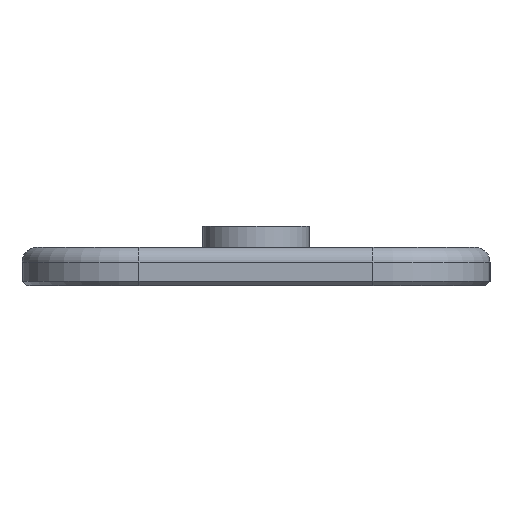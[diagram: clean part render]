
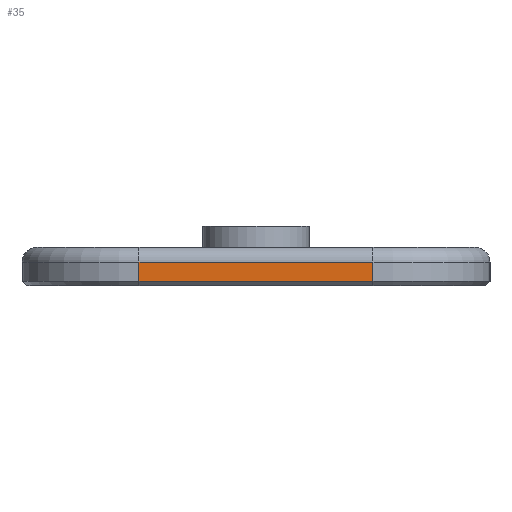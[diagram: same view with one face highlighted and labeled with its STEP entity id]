
A CAD part, left-side view. The second image highlights one B-rep face of the part: STEP entity #35.
In plain terms, the highlighted planar face has unit normal (-1, 0, 0).
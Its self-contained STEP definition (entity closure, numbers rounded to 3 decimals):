
#35 = ADVANCED_FACE('',(#36),#50,.T.);
#36 = FACE_BOUND('',#37,.T.);
#37 = EDGE_LOOP('',(#38,#73,#101,#129));
#38 = ORIENTED_EDGE('',*,*,#39,.T.);
#39 = EDGE_CURVE('',#40,#42,#44,.T.);
#40 = VERTEX_POINT('',#41);
#41 = CARTESIAN_POINT('',(-81.,-5.5,0.2));
#42 = VERTEX_POINT('',#43);
#43 = CARTESIAN_POINT('',(-81.,-5.5,1.1));
#44 = SURFACE_CURVE('',#45,(#49,#61),.PCURVE_S1.);
#45 = LINE('',#46,#47);
#46 = CARTESIAN_POINT('',(-81.,-5.5,0.));
#47 = VECTOR('',#48,1.);
#48 = DIRECTION('',(0.,0.,1.));
#49 = PCURVE('',#50,#55);
#50 = PLANE('',#51);
#51 = AXIS2_PLACEMENT_3D('',#52,#53,#54);
#52 = CARTESIAN_POINT('',(-81.,-5.5,0.));
#53 = DIRECTION('',(-1.,0.,0.));
#54 = DIRECTION('',(0.,1.,0.));
#55 = DEFINITIONAL_REPRESENTATION('',(#56),#60);
#56 = LINE('',#57,#58);
#57 = CARTESIAN_POINT('',(0.,0.));
#58 = VECTOR('',#59,1.);
#59 = DIRECTION('',(0.,-1.));
#60 = ( GEOMETRIC_REPRESENTATION_CONTEXT(2) 
PARAMETRIC_REPRESENTATION_CONTEXT() REPRESENTATION_CONTEXT('2D SPACE',''
  ) );
#61 = PCURVE('',#62,#67);
#62 = CYLINDRICAL_SURFACE('',#63,5.5);
#63 = AXIS2_PLACEMENT_3D('',#64,#65,#66);
#64 = CARTESIAN_POINT('',(-75.5,-5.5,0.));
#65 = DIRECTION('',(-0.,-0.,-1.));
#66 = DIRECTION('',(1.,0.,0.));
#67 = DEFINITIONAL_REPRESENTATION('',(#68),#72);
#68 = LINE('',#69,#70);
#69 = CARTESIAN_POINT('',(-3.142,0.));
#70 = VECTOR('',#71,1.);
#71 = DIRECTION('',(-0.,-1.));
#72 = ( GEOMETRIC_REPRESENTATION_CONTEXT(2) 
PARAMETRIC_REPRESENTATION_CONTEXT() REPRESENTATION_CONTEXT('2D SPACE',''
  ) );
#73 = ORIENTED_EDGE('',*,*,#74,.T.);
#74 = EDGE_CURVE('',#42,#75,#77,.T.);
#75 = VERTEX_POINT('',#76);
#76 = CARTESIAN_POINT('',(-81.,5.5,1.1));
#77 = SURFACE_CURVE('',#78,(#82,#89),.PCURVE_S1.);
#78 = LINE('',#79,#80);
#79 = CARTESIAN_POINT('',(-81.,-5.5,1.1));
#80 = VECTOR('',#81,1.);
#81 = DIRECTION('',(0.,1.,0.));
#82 = PCURVE('',#50,#83);
#83 = DEFINITIONAL_REPRESENTATION('',(#84),#88);
#84 = LINE('',#85,#86);
#85 = CARTESIAN_POINT('',(0.,-1.1));
#86 = VECTOR('',#87,1.);
#87 = DIRECTION('',(1.,0.));
#88 = ( GEOMETRIC_REPRESENTATION_CONTEXT(2) 
PARAMETRIC_REPRESENTATION_CONTEXT() REPRESENTATION_CONTEXT('2D SPACE',''
  ) );
#89 = PCURVE('',#90,#95);
#90 = CYLINDRICAL_SURFACE('',#91,0.7);
#91 = AXIS2_PLACEMENT_3D('',#92,#93,#94);
#92 = CARTESIAN_POINT('',(-80.3,-5.5,1.1));
#93 = DIRECTION('',(0.,1.,0.));
#94 = DIRECTION('',(-1.,0.,0.));
#95 = DEFINITIONAL_REPRESENTATION('',(#96),#100);
#96 = LINE('',#97,#98);
#97 = CARTESIAN_POINT('',(0.,0.));
#98 = VECTOR('',#99,1.);
#99 = DIRECTION('',(0.,1.));
#100 = ( GEOMETRIC_REPRESENTATION_CONTEXT(2) 
PARAMETRIC_REPRESENTATION_CONTEXT() REPRESENTATION_CONTEXT('2D SPACE',''
  ) );
#101 = ORIENTED_EDGE('',*,*,#102,.F.);
#102 = EDGE_CURVE('',#103,#75,#105,.T.);
#103 = VERTEX_POINT('',#104);
#104 = CARTESIAN_POINT('',(-81.,5.5,0.2));
#105 = SURFACE_CURVE('',#106,(#110,#117),.PCURVE_S1.);
#106 = LINE('',#107,#108);
#107 = CARTESIAN_POINT('',(-81.,5.5,0.));
#108 = VECTOR('',#109,1.);
#109 = DIRECTION('',(0.,0.,1.));
#110 = PCURVE('',#50,#111);
#111 = DEFINITIONAL_REPRESENTATION('',(#112),#116);
#112 = LINE('',#113,#114);
#113 = CARTESIAN_POINT('',(11.,0.));
#114 = VECTOR('',#115,1.);
#115 = DIRECTION('',(0.,-1.));
#116 = ( GEOMETRIC_REPRESENTATION_CONTEXT(2) 
PARAMETRIC_REPRESENTATION_CONTEXT() REPRESENTATION_CONTEXT('2D SPACE',''
  ) );
#117 = PCURVE('',#118,#123);
#118 = CYLINDRICAL_SURFACE('',#119,5.5);
#119 = AXIS2_PLACEMENT_3D('',#120,#121,#122);
#120 = CARTESIAN_POINT('',(-75.5,5.5,0.));
#121 = DIRECTION('',(-0.,-0.,-1.));
#122 = DIRECTION('',(1.,0.,0.));
#123 = DEFINITIONAL_REPRESENTATION('',(#124),#128);
#124 = LINE('',#125,#126);
#125 = CARTESIAN_POINT('',(-3.142,0.));
#126 = VECTOR('',#127,1.);
#127 = DIRECTION('',(-0.,-1.));
#128 = ( GEOMETRIC_REPRESENTATION_CONTEXT(2) 
PARAMETRIC_REPRESENTATION_CONTEXT() REPRESENTATION_CONTEXT('2D SPACE',''
  ) );
#129 = ORIENTED_EDGE('',*,*,#130,.F.);
#130 = EDGE_CURVE('',#40,#103,#131,.T.);
#131 = SURFACE_CURVE('',#132,(#136,#143),.PCURVE_S1.);
#132 = LINE('',#133,#134);
#133 = CARTESIAN_POINT('',(-81.,-5.5,0.2));
#134 = VECTOR('',#135,1.);
#135 = DIRECTION('',(0.,1.,0.));
#136 = PCURVE('',#50,#137);
#137 = DEFINITIONAL_REPRESENTATION('',(#138),#142);
#138 = LINE('',#139,#140);
#139 = CARTESIAN_POINT('',(0.,-0.2));
#140 = VECTOR('',#141,1.);
#141 = DIRECTION('',(1.,0.));
#142 = ( GEOMETRIC_REPRESENTATION_CONTEXT(2) 
PARAMETRIC_REPRESENTATION_CONTEXT() REPRESENTATION_CONTEXT('2D SPACE',''
  ) );
#143 = PCURVE('',#144,#149);
#144 = PLANE('',#145);
#145 = AXIS2_PLACEMENT_3D('',#146,#147,#148);
#146 = CARTESIAN_POINT('',(-80.9,-5.5,0.1));
#147 = DIRECTION('',(0.707,0.,0.707)
  );
#148 = DIRECTION('',(0.,-1.,0.));
#149 = DEFINITIONAL_REPRESENTATION('',(#150),#154);
#150 = LINE('',#151,#152);
#151 = CARTESIAN_POINT('',(-0.,-0.141));
#152 = VECTOR('',#153,1.);
#153 = DIRECTION('',(-1.,0.));
#154 = ( GEOMETRIC_REPRESENTATION_CONTEXT(2) 
PARAMETRIC_REPRESENTATION_CONTEXT() REPRESENTATION_CONTEXT('2D SPACE',''
  ) );
